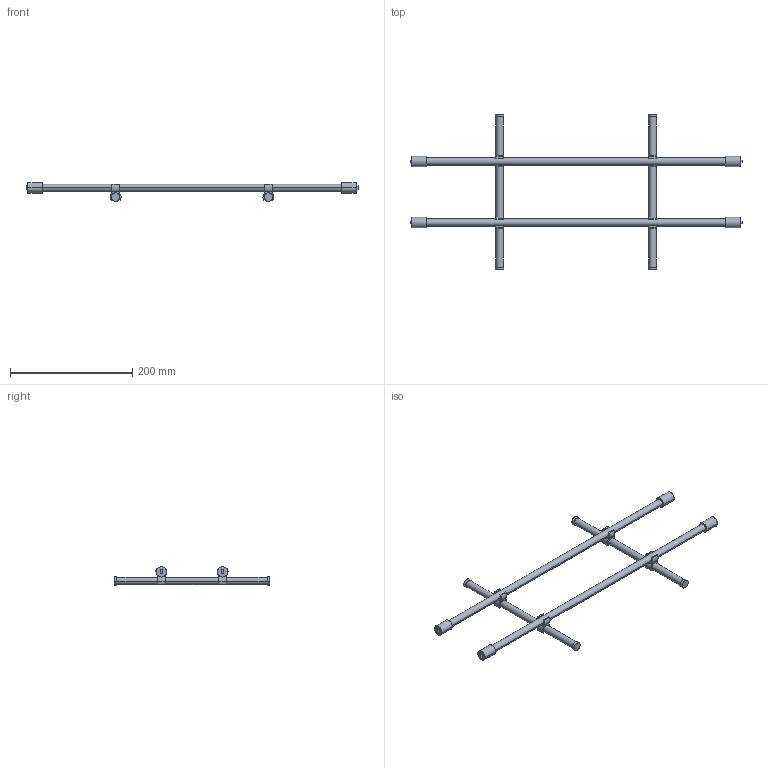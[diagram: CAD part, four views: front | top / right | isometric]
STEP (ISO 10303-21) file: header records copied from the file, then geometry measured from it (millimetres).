
FILE_DESCRIPTION (( 'STEP AP214' ), '1' );
FILE_NAME ('Magic-Classic_NL-290-KAB 600.step', '2010-09-16T12:49:12', ( 'grass' ), ( '' ), 'SwSTEP 2.0', 'SolidWorks 2010', '' );
FILE_SCHEMA (( 'AUTOMOTIVE_DESIGN' ));
Length unit declared in the file: millimetre
Products named in the file (1): Magic-Classic_NL-290-KAB 600
Bounding box: 543 x 255 x 30.45 mm (x, y, z)
Volume: 199701.1 mm3; surface area: 66249.7 mm2
Topology: 1 solids, 1 shells, 140 faces, 384 edges, 256 vertices
Faces by surface type: plane 76, cylinder 64
Entity records: 4546 total; most frequent: DIRECTION 826, CARTESIAN_POINT 781, ORIENTED_EDGE 768, EDGE_CURVE 384, AXIS2_PLACEMENT_3D 301, VERTEX_POINT 256, LINE 224, VECTOR 224
